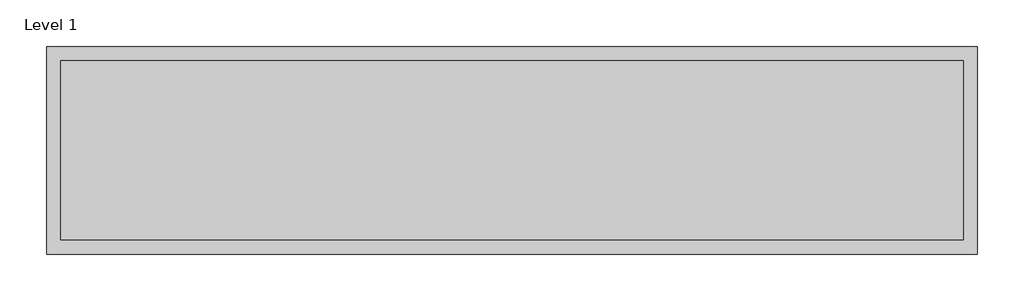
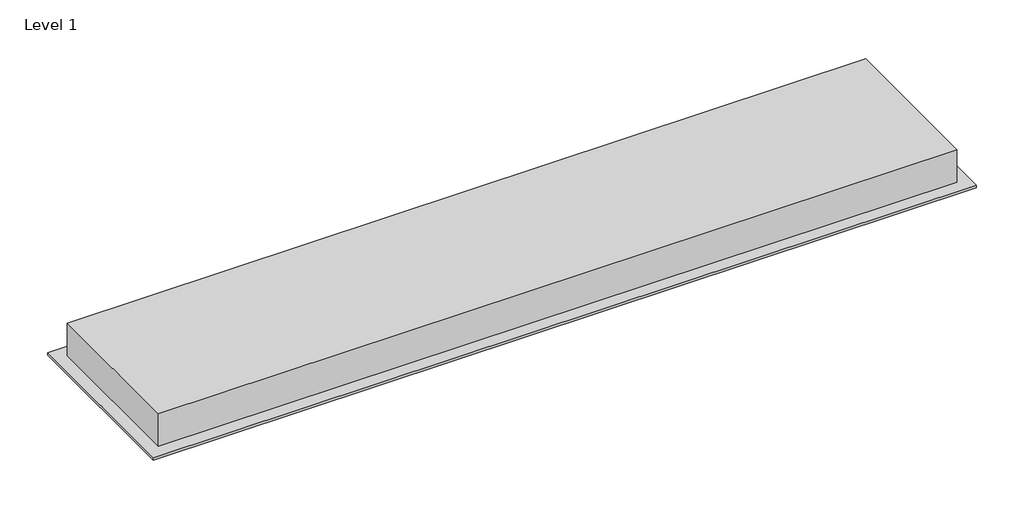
# One storey, incomplete: 1 air terminal.
"""IFC4 building model written with IfcOpenShell, lengths in millimetres."""

from ifc_helpers import new_model, si_unit, origin, place, context, project, spatial, transform, mapped, element, save
from components import csd_25_4_slot_continuous_c072d293

model = new_model("IFC4")

# Units and contexts
model_context = context("Model", 3, world=origin())
ifc_project = project(units=[si_unit("LENGTHUNIT", "METRE", prefix="MILLI")], contexts=[model_context])

# Site, building, storey
site = spatial("IfcSite", under=ifc_project)
building = spatial("IfcBuilding", under=site)
storey = spatial("IfcBuildingStorey", under=building, Name="Level 1", Elevation=0.0)

# Air terminal
placement = place(None, origin())
csd_25_4_slot_continuous_shape = csd_25_4_slot_continuous_c072d293(model_context)
element("IfcAirTerminal", 1, ObjectType="DC_Holyoake_MEQ_CSD-25-4-MF_Slot_Continuous_14 : CSD-25-4-Slot Continuous", at=placement, inside=storey, context=model_context, shape_type="MappedRepresentation", body=[
    mapped(csd_25_4_slot_continuous_shape, transform((-2902.2900503, 5178.9557141, 0.0), x_axis=(1.0, 0.0, 0.0), y_axis=(0.0, 1.0, 0.0), z_axis=(0.0, 0.0, 1.0))),
])

save(model, "model.ifc")
